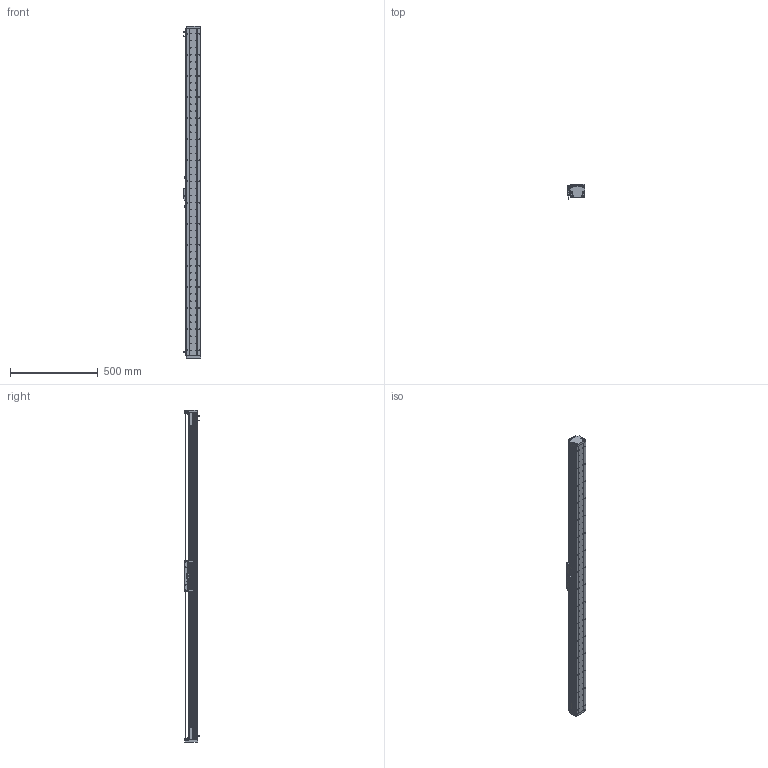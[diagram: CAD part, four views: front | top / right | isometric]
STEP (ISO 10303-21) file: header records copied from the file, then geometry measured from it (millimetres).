
FILE_DESCRIPTION (( 'STEP AP203' ), '1' );
FILE_NAME ('DA-A82-B2-T1640-C010-0.2 眻盄萇儂.STEP', '2025-08-13T03:11:28', ( '' ), ( '' ), 'SwSTEP 2.0', 'SolidWorks 2019', '' );
FILE_SCHEMA (( 'CONFIG_CONTROL_DESIGN' ));
Length unit declared in the file: millimetre
Products named in the file (23): 复件 复件 DA82-XJ-00 缓冲橡胶^DA-A82-B2-T-C010-0.2; 葩璃 DA60-DMT-DTJ-00 黍杅芛盓殤^DA-A82-B2-T-C010-0.2; ｸｴｼ BKM02-W040-C1-TP-DA-3.0 ﾖｱﾏﾟｵ扈巐ｯﾗﾓ^DA-A82-B2-T-C010-0.2; 复件 DA95-GT-T-00 底座钢轨^IU-AU82-L 底座导轨; 复件 复件 17517-0000-004-00  钢带压块^DA-A82-B2-T-C010-0.2(默认); 复件 复件 17517-0000-003-00 钢带拉块^DA-A82-B2-T-C010-0.2; DA-A60-GYP-DMT-00 光电感应片^DA-A82-B2-T-C010-0.2(默认); 葩璃 XD-U-02  棠掑喜^DA-A82-B2-T-C010-0.2; IU-AU82-L 菁釱絳寢; 葩璃 BKM01-W040-TRL^DA-A82-B2-T-C010-0.2; AU82-M 幗紩賑怢; 复件 纯铜油杯 6x6mm^AU82-M 滚珠滑台; 复件 DA95-B2-GT-00 滑块钢轨^AU82-M-00 一体化滑动台板; AU82-M-00 珨极趙賑雄怢啣; 复件 复件 复件 DA82 钢带盖板^DA-A82-B2-T-C010-0.2(默认); 葩璃 DMT-010 1米m 0.2M^DA-A82-B2-T-C010-0.2; 葩璃 葩璃 17517-0000-002-00 傷啣^DA-A82-B2-T-C010-0.2; 葩璃 DA82-B2-DP-00 結え^AU82-M 幗紩賑怢; 葩璃 PM-T45^DA-A82-B2-T-C010-0.2; AU82-HT-M-00 賑雄怢啣; IU-AU82-L-00 菁釱(L1860); 葩璃 鞠褒情蹟譫 M3^DA-A82-B2-T-C010-0.2; DA-A82-B2-T1640-C010-0.2 眻盄萇儂
Assembly tree (40 placements, depth 4):
  DA-A82-B2-T1640-C010-0.2 眻盄萇儂
    IU-AU82-L 菁釱絳寢
      IU-AU82-L-00 菁釱(L1860)
      复件 DA95-GT-T-00 底座钢轨^IU-AU82-L 底座导轨  x2
    AU82-M 幗紩賑怢
      AU82-M-00 珨极趙賑雄怢啣
        AU82-HT-M-00 賑雄怢啣
        复件 DA95-B2-GT-00 滑块钢轨^AU82-M-00 一体化滑动台板  x4
      葩璃 DA82-B2-DP-00 結え^AU82-M 幗紩賑怢  x2
      复件 纯铜油杯 6x6mm^AU82-M 滚珠滑台  x2
    葩璃 DA60-DMT-DTJ-00 黍杅芛盓殤^DA-A82-B2-T-C010-0.2
    葩璃 DMT-010 1米m 0.2M^DA-A82-B2-T-C010-0.2
    DA-A60-GYP-DMT-00 光电感应片^DA-A82-B2-T-C010-0.2(默认)  x2
    ｸｴｼ BKM02-W040-C1-TP-DA-3.0 ﾖｱﾏﾟｵ扈巐ｯﾗﾓ^DA-A82-B2-T-C010-0.2
    复件 复件 17517-0000-003-00 钢带拉块^DA-A82-B2-T-C010-0.2  x2
    复件 复件 DA82-XJ-00 缓冲橡胶^DA-A82-B2-T-C010-0.2  x2
    复件 复件 17517-0000-004-00  钢带压块^DA-A82-B2-T-C010-0.2(默认)  x2
    葩璃 葩璃 17517-0000-002-00 傷啣^DA-A82-B2-T-C010-0.2  x2
    复件 复件 复件 DA82 钢带盖板^DA-A82-B2-T-C010-0.2(默认)
    葩璃 BKM01-W040-TRL^DA-A82-B2-T-C010-0.2
    葩璃 PM-T45^DA-A82-B2-T-C010-0.2  x3
    葩璃 XD-U-02  棠掑喜^DA-A82-B2-T-C010-0.2
    葩璃 鞠褒情蹟譫 M3^DA-A82-B2-T-C010-0.2  x6
Bounding box: 98.94 x 87.2 x 1888 mm (x, y, z)
Volume: 5367385.4 mm3; surface area: 1631350.1 mm2
Topology: 44 solids, 68 shells, 2513 faces, 6716 edges, 4250 vertices
Faces by surface type: cylinder 1273, plane 950, cone 272, bspline 8, torus 8, sphere 2
Entity records: 71335 total; most frequent: CARTESIAN_POINT 16507, DIRECTION 11119, ORIENTED_EDGE 10536, EDGE_CURVE 5268, AXIS2_PLACEMENT_3D 4287, VERTEX_POINT 3434, EDGE_LOOP 2682, LINE 2545
